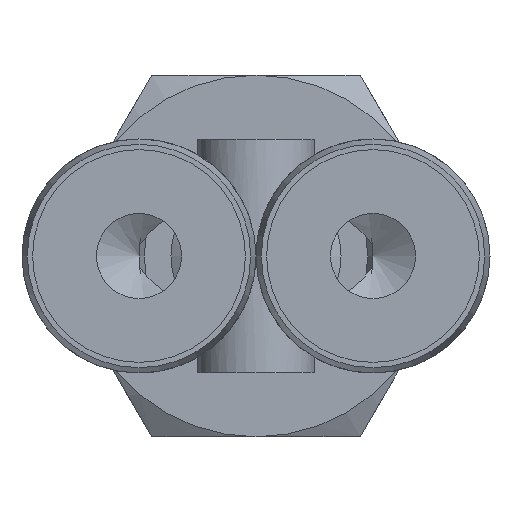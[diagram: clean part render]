
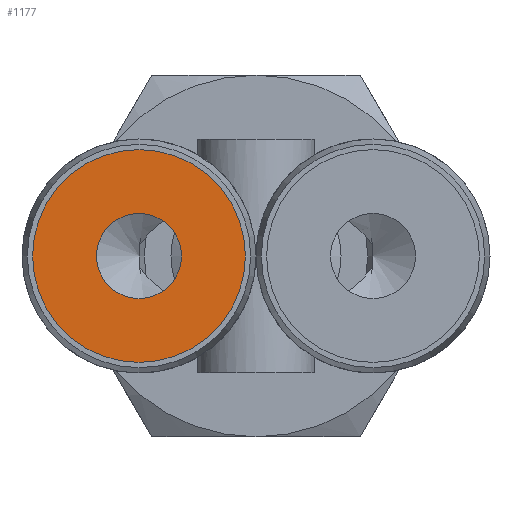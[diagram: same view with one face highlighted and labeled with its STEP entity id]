
A CAD part, front view. The second image highlights one B-rep face of the part: STEP entity #1177.
In plain terms, the highlighted planar face has unit normal (0, -1, 0).
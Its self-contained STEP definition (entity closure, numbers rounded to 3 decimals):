
#47=FACE_BOUND('',#224,.T.);
#60=PLANE('',#1304);
#146=FACE_OUTER_BOUND('',#223,.T.);
#223=EDGE_LOOP('',(#874,#875));
#224=EDGE_LOOP('',(#876));
#380=CIRCLE('',#1283,2.);
#392=CIRCLE('',#1302,5.);
#393=CIRCLE('',#1303,5.);
#491=VERTEX_POINT('',#2047);
#505=VERTEX_POINT('',#2107);
#506=VERTEX_POINT('',#2108);
#625=EDGE_CURVE('',#491,#491,#380,.T.);
#644=EDGE_CURVE('',#505,#506,#392,.T.);
#646=EDGE_CURVE('',#506,#505,#393,.T.);
#874=ORIENTED_EDGE('',*,*,#644,.F.);
#875=ORIENTED_EDGE('',*,*,#646,.F.);
#876=ORIENTED_EDGE('',*,*,#625,.T.);
#1177=ADVANCED_FACE('',(#146,#47),#60,.F.);
#1283=AXIS2_PLACEMENT_3D('',#2048,#1499,#1500);
#1302=AXIS2_PLACEMENT_3D('',#2109,#1540,#1541);
#1303=AXIS2_PLACEMENT_3D('',#2111,#1543,#1544);
#1304=AXIS2_PLACEMENT_3D('',#2112,#1545,#1546);
#1499=DIRECTION('center_axis',(0.,1.,0.));
#1500=DIRECTION('ref_axis',(-1.,0.,0.));
#1540=DIRECTION('center_axis',(0.,1.,0.));
#1541=DIRECTION('ref_axis',(-1.,0.,0.));
#1543=DIRECTION('center_axis',(0.,1.,0.));
#1544=DIRECTION('ref_axis',(-1.,0.,0.));
#1545=DIRECTION('center_axis',(0.,1.,0.));
#1546=DIRECTION('ref_axis',(0.,0.,-1.));
#2047=CARTESIAN_POINT('',(-3.5,-14.191,0.));
#2048=CARTESIAN_POINT('Origin',(-5.5,-14.191,0.));
#2107=CARTESIAN_POINT('',(-10.5,-14.191,0.));
#2108=CARTESIAN_POINT('',(-0.5,-14.191,0.));
#2109=CARTESIAN_POINT('Origin',(-5.5,-14.191,0.));
#2111=CARTESIAN_POINT('Origin',(-5.5,-14.191,0.));
#2112=CARTESIAN_POINT('Origin',(-7.5,-14.191,0.));
